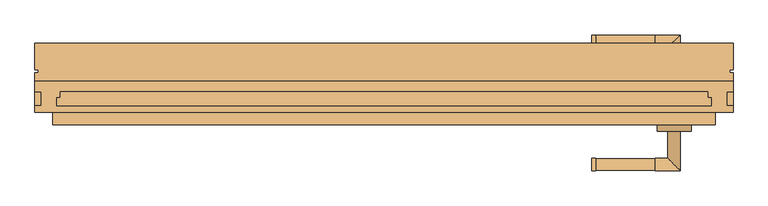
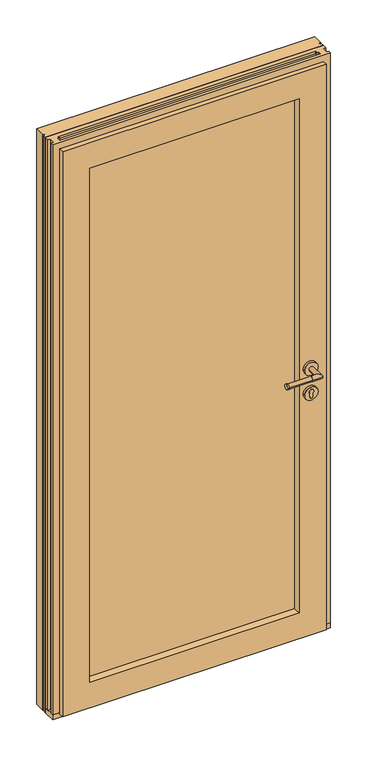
"""IFC4 building model written with IfcOpenShell, lengths in millimetres: door geometry, Porte vitrée MéO : Porte vitrée MéO."""

from ifc_helpers import new_model, si_unit, point, frame, frame_2d, origin, origin_with_axes, place, context, project, spatial, polyline, circle_curve, ellipse_curve, trimmed, segment, composite_curve, outline, extrude, faceted_brep, source, transform, mapped, element, save
from ifc_brep_helpers import plane_surface, cylinder_surface, advanced_brep


def door_e8a2ffe3(model_context):
    return source(origin(), model_context, "Body", "SolidModel", [
        advanced_brep(
        [(433.5, -12.0, 1100.0), (452.5, -12.0, 1100.0), (452.5, 48.0, 1100.0), (433.5, 29.0, 1100.0), (317.5, 29.0, 1100.0), (317.5, 48.0, 1100.0), (323.5, 29.0, 1100.0), (323.5, 48.0, 1100.0), (414.5, 48.0, 1100.0), (414.5, 29.0, 1100.0), (323.5, 29.5, 1100.0), (323.5, 47.5, 1100.0), (414.5, 29.5, 1100.0), (414.5, 47.5, 1100.0)],
        [
            (0, 1, circle_curve(frame((443.0, -12.0, 1100.0), z_axis=(0.0, -1.0, 0.0), x_axis=(1.0, 0.0, 0.0)), 9.5)),
            (1, 0, circle_curve(frame((443.0, -12.0, 1100.0), z_axis=(0.0, -1.0, 0.0), x_axis=(1.0, 0.0, 0.0)), 9.5)),
            (1, 2),
            (2, 3, ellipse_curve(frame((443.0, 38.5, 1100.0), z_axis=(0.7071067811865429, -0.707106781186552, 0.0), x_axis=(-0.7071067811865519, -0.707106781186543, 0.0)), 13.4350288, 9.5)),
            (3, 0),
            (3, 2, ellipse_curve(frame((443.0, 38.5, 1100.0), z_axis=(0.7071067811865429, -0.707106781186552, 0.0), x_axis=(-0.7071067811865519, -0.707106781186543, 0.0)), 13.4350288, 9.5)),
            (4, 5, circle_curve(frame((317.5, 38.5, 1100.0), z_axis=(-1.0, 0.0, 0.0), x_axis=(0.0, 1.0, 0.0)), 9.5)),
            (5, 4, circle_curve(frame((317.5, 38.5, 1100.0), z_axis=(-1.0, 0.0, 0.0), x_axis=(0.0, 1.0, 0.0)), 9.5)),
            (4, 6),
            (6, 7, circle_curve(frame((323.5, 38.5, 1100.0), z_axis=(-1.0, 0.0, 0.0), x_axis=(0.0, 1.0, 0.0)), 9.5)),
            (7, 5),
            (2, 8),
            (8, 9, circle_curve(frame((414.5, 38.5, 1100.0), z_axis=(1.0, 0.0, 0.0), x_axis=(0.0, 1.0, 0.0)), 9.5)),
            (9, 3),
            (9, 8, circle_curve(frame((414.5, 38.5, 1100.0), z_axis=(1.0, 0.0, 0.0), x_axis=(0.0, 1.0, 0.0)), 9.5)),
            (7, 6, circle_curve(frame((323.5, 38.5, 1100.0), z_axis=(-1.0, 0.0, 0.0), x_axis=(0.0, 1.0, 0.0)), 9.5)),
            (10, 11, circle_curve(frame((323.5, 38.5, 1100.0), z_axis=(-1.0, 0.0, 0.0), x_axis=(0.0, 1.0, 0.0)), 9.0)),
            (11, 10, circle_curve(frame((323.5, 38.5, 1100.0), z_axis=(-1.0, 0.0, 0.0), x_axis=(0.0, 1.0, 0.0)), 9.0)),
            (12, 13, circle_curve(frame((414.5, 38.5, 1100.0), z_axis=(1.0, 0.0, 0.0), x_axis=(0.0, 1.0, 0.0)), 9.0)),
            (13, 12, circle_curve(frame((414.5, 38.5, 1100.0), z_axis=(1.0, 0.0, 0.0), x_axis=(0.0, 1.0, 0.0)), 9.0)),
            (10, 12),
            (13, 11),
        ],
        [
            plane_surface(frame((443.0, -12.0, 1100.0), z_axis=(0.0, -1.0, 0.0), x_axis=(0.0, 0.0, 1.0))),
            cylinder_surface(frame((443.0, -12.0, 1100.0), z_axis=(0.0, -1.0, 0.0), x_axis=(1.0, 0.0, 0.0)), 9.5),
            plane_surface(frame((317.5, 38.5, 1100.0), z_axis=(-1.0, 0.0, 0.0), x_axis=(0.0, 0.0, 1.0))),
            cylinder_surface(frame((443.0, 38.5, 1100.0), z_axis=(1.0, 0.0, 0.0), x_axis=(0.0, 1.0, 0.0)), 9.5),
            plane_surface(frame((323.5, 48.0, 1100.0), z_axis=(1.0, 0.0, 0.0), x_axis=(0.0, 0.0, 1.0))),
            plane_surface(frame((414.5, 48.0, 1100.0), z_axis=(-1.0, 0.0, 0.0), x_axis=(0.0, 0.0, -1.0))),
            cylinder_surface(frame((443.0, 38.5, 1100.0), z_axis=(1.0, 0.0, 0.0), x_axis=(0.0, 1.0, 0.0)), 9.0),
        ],
        [
            (0, [[1, 2]]),
            (1, [[3, 4, 5, -2]]),
            (1, [[-5, 6, -3, -1]]),
            (2, [[7, 8]]),
            (3, [[9, 10, 11, -7]]),
            (3, [[12, 13, 14, -4]]),
            (3, [[-14, 15, -12, -6]]),
            (3, [[-11, 16, -9, -8]]),
            (4, [[-16, -10], [17, 18]]),
            (5, [[-15, -13], [19, 20]]),
            (6, [[21, -20, 22, -17]]),
            (6, [[-22, -19, -21, -18]]),
        ],
    ),
        extrude(outline(composite_curve([segment(trimmed(circle_curve(frame_2d((999.75, 443.0)), 26.0), [point((999.75, 469.0))], [point((999.75, 417.0))], False, "CARTESIAN"), True, "CONTINUOUS"), segment(trimmed(circle_curve(frame_2d((999.75, 443.0)), 26.0), [point((999.75, 417.0))], [point((999.75, 469.0))], False, "CARTESIAN"), True, "CONTINUOUS")], self_intersect=False)), frame((0.0, -22.0, 0.0), z_axis=(0.0, 1.0, 0.0), x_axis=(0.0, 0.0, 1.0)), (0.0, 0.0, 1.0), 10.0),
        extrude(outline(composite_curve([segment(trimmed(circle_curve(frame_2d((1008.0, 443.0)), 8.75), [point((1001.404547, 448.75))], [point((1001.404547, 437.25))], False, "CARTESIAN"), True, "CONTINUOUS"), segment(polyline([(1001.404547, 437.25), (988.0, 437.25)]), True, "CONTINUOUS"), segment(trimmed(circle_curve(frame_2d((988.0, 443.0)), 5.75), [point((988.0, 437.25))], [point((988.0, 448.75))], False, "CARTESIAN"), True, "CONTINUOUS"), segment(polyline([(988.0, 448.75), (1001.404547, 448.75)]), True, "CONTINUOUS")], self_intersect=False)), frame((0.0, -12.0, 0.0), z_axis=(0.0, 1.0, 0.0), x_axis=(0.0, 0.0, 1.0)), (0.0, 0.0, 1.0), 1.0),
        extrude(outline(composite_curve([segment(trimmed(circle_curve(frame_2d((1100.0, 443.0)), 26.0), [point((1100.0, 469.0))], [point((1100.0, 417.0))], False, "CARTESIAN"), True, "CONTINUOUS"), segment(trimmed(circle_curve(frame_2d((1100.0, 443.0)), 26.0), [point((1100.0, 417.0))], [point((1100.0, 469.0))], False, "CARTESIAN"), True, "CONTINUOUS")], self_intersect=False)), frame((0.0, -22.0, 0.0), z_axis=(0.0, 1.0, 0.0), x_axis=(0.0, 0.0, 1.0)), (0.0, 0.0, 1.0), 10.0),
        advanced_brep(
        [(433.5, -99.0, 1100.0), (452.5, -99.0, 1100.0), (433.5, -140.0, 1100.0), (452.5, -159.0, 1100.0), (317.5, -140.0, 1100.0), (317.5, -159.0, 1100.0), (414.5, -140.0, 1100.0), (414.5, -159.0, 1100.0), (323.5, -159.0, 1100.0), (323.5, -140.0, 1100.0), (323.5, -140.5, 1100.0), (323.5, -158.5, 1100.0), (414.5, -140.5, 1100.0), (414.5, -158.5, 1100.0)],
        [
            (0, 1, circle_curve(frame((443.0, -99.0, 1100.0), z_axis=(0.0, 1.0, 0.0), x_axis=(1.0, 0.0, 0.0)), 9.5)),
            (1, 0, circle_curve(frame((443.0, -99.0, 1100.0), z_axis=(0.0, 1.0, 0.0), x_axis=(1.0, 0.0, 0.0)), 9.5)),
            (0, 2),
            (2, 3, ellipse_curve(frame((443.0, -149.5, 1100.0), z_axis=(0.7071067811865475, 0.7071067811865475, 0.0), x_axis=(-0.7071067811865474, 0.7071067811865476, 0.0)), 13.4350288, 9.5)),
            (3, 1),
            (3, 2, ellipse_curve(frame((443.0, -149.5, 1100.0), z_axis=(0.7071067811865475, 0.7071067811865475, 0.0), x_axis=(-0.7071067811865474, 0.7071067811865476, 0.0)), 13.4350288, 9.5)),
            (4, 5, circle_curve(frame((317.5, -149.5, 1100.0), z_axis=(-1.0, 0.0, 0.0), x_axis=(0.0, -1.0, 0.0)), 9.5)),
            (5, 4, circle_curve(frame((317.5, -149.5, 1100.0), z_axis=(-1.0, 0.0, 0.0), x_axis=(0.0, -1.0, 0.0)), 9.5)),
            (2, 6),
            (6, 7, circle_curve(frame((414.5, -149.5, 1100.0), z_axis=(1.0, 0.0, 0.0), x_axis=(0.0, -1.0, 0.0)), 9.5)),
            (7, 3),
            (5, 8),
            (8, 9, circle_curve(frame((323.5, -149.5, 1100.0), z_axis=(-1.0, 0.0, 0.0), x_axis=(0.0, -1.0, 0.0)), 9.5)),
            (9, 4),
            (7, 6, circle_curve(frame((414.5, -149.5, 1100.0), z_axis=(1.0, 0.0, 0.0), x_axis=(0.0, -1.0, 0.0)), 9.5)),
            (9, 8, circle_curve(frame((323.5, -149.5, 1100.0), z_axis=(-1.0, 0.0, 0.0), x_axis=(0.0, -1.0, 0.0)), 9.5)),
            (10, 11, circle_curve(frame((323.5, -149.5, 1100.0), z_axis=(-1.0, 0.0, 0.0), x_axis=(0.0, -1.0, 0.0)), 9.0)),
            (11, 10, circle_curve(frame((323.5, -149.5, 1100.0), z_axis=(-1.0, 0.0, 0.0), x_axis=(0.0, -1.0, 0.0)), 9.0)),
            (12, 13, circle_curve(frame((414.5, -149.5, 1100.0), z_axis=(1.0, 0.0, 0.0), x_axis=(0.0, -1.0, 0.0)), 9.0)),
            (13, 12, circle_curve(frame((414.5, -149.5, 1100.0), z_axis=(1.0, 0.0, 0.0), x_axis=(0.0, -1.0, 0.0)), 9.0)),
            (11, 13),
            (12, 10),
        ],
        [
            plane_surface(frame((443.0, -99.0, 1100.0), z_axis=(0.0, 1.0, 0.0), x_axis=(0.0, 0.0, 1.0))),
            cylinder_surface(frame((443.0, -99.0, 1100.0), z_axis=(0.0, 1.0, 0.0), x_axis=(1.0, 0.0, 0.0)), 9.5),
            plane_surface(frame((317.5, -149.5, 1100.0), z_axis=(-1.0, 0.0, 0.0), x_axis=(0.0, 0.0, 1.0))),
            cylinder_surface(frame((443.0, -149.5, 1100.0), z_axis=(1.0, 0.0, 0.0), x_axis=(0.0, -1.0, 0.0)), 9.5),
            plane_surface(frame((323.5, -159.0, 1100.0), z_axis=(1.0, 0.0, 0.0), x_axis=(0.0, 0.0, 1.0))),
            plane_surface(frame((414.5, -159.0, 1100.0), z_axis=(-1.0, 0.0, 0.0), x_axis=(0.0, 0.0, -1.0))),
            cylinder_surface(frame((443.0, -149.5, 1100.0), z_axis=(1.0, 0.0, 0.0), x_axis=(0.0, -1.0, 0.0)), 9.0),
        ],
        [
            (0, [[1, 2]]),
            (1, [[-1, 3, 4, 5]]),
            (1, [[-2, -5, 6, -3]]),
            (2, [[7, 8]]),
            (3, [[-4, 9, 10, 11]]),
            (3, [[-8, 12, 13, 14]]),
            (3, [[-6, -11, 15, -9]]),
            (3, [[-7, -14, 16, -12]]),
            (4, [[-13, -16], [17, 18]]),
            (5, [[-10, -15], [19, 20]]),
            (6, [[-18, 21, -19, 22]]),
            (6, [[-17, -22, -20, -21]]),
        ],
    ),
        extrude(outline(composite_curve([segment(trimmed(circle_curve(frame_2d((999.75, 443.0)), 26.0), [point((999.75, 469.0))], [point((999.75, 417.0))], False, "CARTESIAN"), True, "CONTINUOUS"), segment(trimmed(circle_curve(frame_2d((999.75, 443.0)), 26.0), [point((999.75, 417.0))], [point((999.75, 469.0))], False, "CARTESIAN"), True, "CONTINUOUS")], self_intersect=False)), frame((0.0, -99.0, 0.0), z_axis=(0.0, 1.0, 0.0), x_axis=(0.0, 0.0, 1.0)), (0.0, 0.0, 1.0), 10.0),
        extrude(outline(composite_curve([segment(trimmed(circle_curve(frame_2d((1008.0, 443.0)), 8.75), [point((1001.404547, 448.75))], [point((1001.404547, 437.25))], False, "CARTESIAN"), True, "CONTINUOUS"), segment(polyline([(1001.404547, 437.25), (988.0, 437.25)]), True, "CONTINUOUS"), segment(trimmed(circle_curve(frame_2d((988.0, 443.0)), 5.75), [point((988.0, 437.25))], [point((988.0, 448.75))], False, "CARTESIAN"), True, "CONTINUOUS"), segment(polyline([(988.0, 448.75), (1001.404547, 448.75)]), True, "CONTINUOUS")], self_intersect=False)), frame((0.0, -100.0, 0.0), z_axis=(0.0, 1.0, 0.0), x_axis=(0.0, 0.0, 1.0)), (0.0, 0.0, 1.0), 1.0),
        extrude(outline(composite_curve([segment(trimmed(circle_curve(frame_2d((1100.0, 443.0)), 26.0), [point((1100.0, 469.0))], [point((1100.0, 417.0))], False, "CARTESIAN"), True, "CONTINUOUS"), segment(trimmed(circle_curve(frame_2d((1100.0, 443.0)), 26.0), [point((1100.0, 417.0))], [point((1100.0, 469.0))], False, "CARTESIAN"), True, "CONTINUOUS")], self_intersect=False)), frame((0.0, -99.0, 0.0), z_axis=(0.0, 1.0, 0.0), x_axis=(0.0, 0.0, 1.0)), (0.0, 0.0, 1.0), 10.0),
        extrude(outline(polyline([(412.0, -38.0), (412.0, -65.9981764), (-412.0, -65.9981764), (-412.0, -38.0), (412.0, -38.0)])), frame((0.0, 0.0, 108.0), z_axis=(0.0, 0.0, 1.0), x_axis=(1.0, 0.0, 0.0)), (0.0, 0.0, 1.0), 2105.0),
        faceted_brep([(396.0, -38.0, 2197.0), (400.5226435, -22.0, 2201.5226435), (400.5226435, -22.0, 119.4773565), (396.0, -38.0, 124.0), (476.0, -22.0, 44.0), (-476.0, -22.0, 44.0), (-476.0, -22.0, 2277.0), (476.0, -22.0, 2277.0), (-400.5226435, -22.0, 2201.5226435), (-400.5226435, -22.0, 119.4773565), (-396.0, -38.0, 124.0), (476.0, -38.0, 2277.0), (-476.0, -38.0, 2277.0), (-476.0, -38.0, 44.0), (476.0, -38.0, 44.0), (-396.0, -38.0, 2197.0)], [[[0, 1, 2, 3]], [[4, 5, 6, 7], [1, 8, 9, 2]], [[3, 2, 9, 10]], [[11, 12, 13, 14], [3, 10, 15, 0]], [[7, 11, 14, 4]], [[4, 14, 13, 5]], [[10, 9, 8, 15]], [[5, 13, 12, 6]], [[15, 8, 1, 0]], [[6, 12, 11, 7]]]),
        faceted_brep([(506.0, -70.0, 2307.0), (506.0, -89.0, 2307.0), (506.0, -89.0, 14.0), (506.0, -70.0, 14.0), (-506.0, -89.0, 2307.0), (-506.0, -89.0, 14.0), (402.0, -89.0, 118.0), (-402.0, -89.0, 118.0), (-402.0, -89.0, 2203.0), (402.0, -89.0, 2203.0), (-506.0, -70.0, 14.0), (-506.0, -70.0, 2307.0), (476.0, -70.0, 2277.0), (-476.0, -70.0, 2277.0), (-476.0, -70.0, 44.0), (476.0, -70.0, 44.0), (476.0, -38.0, 2277.0), (476.0, -38.0, 44.0), (-476.0, -38.0, 44.0), (-476.0, -38.0, 2277.0), (412.0, -38.0, 2213.0), (-412.0, -38.0, 2213.0), (-412.0, -38.0, 108.0), (412.0, -38.0, 108.0), (412.0, -65.9981764, 2213.0), (412.0, -65.9981764, 108.0), (-412.0, -65.9981764, 108.0), (-412.0, -65.9981764, 2213.0), (396.2463825, -65.9981764, 2197.2463825), (-396.2463825, -65.9981764, 2197.2463825), (-396.2463825, -65.9981764, 123.7536175), (396.2463825, -65.9981764, 123.7536175)], [[[0, 1, 2, 3]], [[1, 4, 5, 2], [6, 7, 8, 9]], [[3, 2, 5, 10]], [[3, 10, 11, 0], [12, 13, 14, 15]], [[16, 12, 15, 17]], [[17, 15, 14, 18]], [[17, 18, 19, 16], [20, 21, 22, 23]], [[24, 20, 23, 25]], [[25, 23, 22, 26]], [[25, 26, 27, 24], [28, 29, 30, 31]], [[9, 28, 31, 6]], [[6, 31, 30, 7]], [[10, 5, 4, 11]], [[18, 14, 13, 19]], [[26, 22, 21, 27]], [[7, 30, 29, 8]], [[11, 4, 1, 0]], [[19, 13, 12, 16]], [[27, 21, 20, 24]], [[8, 29, 28, 9]]]),
        faceted_brep([(494.0, 35.0, 0.0), (533.0, 35.0, 0.0), (533.0, -5.0, 0.0), (528.0, -5.0, 0.0), (528.0, -10.0, 0.0), (533.0, -10.0, 0.0), (533.0, -22.0, 0.0), (471.5, -22.0, 0.0), (471.5, -14.0, 0.0), (494.0, -14.0, 0.0), (-533.0, -10.0, 0.0), (-528.0, -10.0, 0.0), (-528.0, -5.0, 0.0), (-533.0, -5.0, 0.0), (-533.0, 35.0, 0.0), (-494.0, 35.0, 0.0), (-494.0, -14.0, 0.0), (-471.5, -14.0, 0.0), (-471.5, -22.0, 0.0), (-533.0, -22.0, 0.0), (494.0, -14.0, 2295.0), (494.0, 35.0, 2295.0), (471.5, -22.0, 2272.5), (471.5, -14.0, 2272.5), (-494.0, 35.0, 2295.0), (-494.0, -14.0, 2295.0), (-471.5, -14.0, 2272.5), (-471.5, -22.0, 2272.5), (-533.0, -22.0, 2334.0), (-533.0, -10.0, 2334.0), (-533.0, -5.0, 2334.0), (-533.0, 35.0, 2334.0), (-528.0, -5.0, 2334.0), (-528.0, -10.0, 2334.0), (533.0, -10.0, 2334.0), (533.0, -22.0, 2334.0), (528.0, -10.0, 2334.0), (528.0, -5.0, 2334.0), (533.0, -5.0, 2334.0), (533.0, 35.0, 2334.0)], [[[0, 1, 2, 3, 4, 5, 6, 7, 8, 9]], [[10, 11, 12, 13, 14, 15, 16, 17, 18, 19]], [[0, 9, 20, 21]], [[8, 7, 22, 23]], [[24, 21, 20, 25]], [[26, 23, 22, 27]], [[18, 17, 26, 27]], [[25, 16, 15, 24]], [[28, 29, 10, 19]], [[30, 31, 14, 13]], [[32, 30, 13, 12]], [[33, 32, 12, 11]], [[29, 33, 11, 10]], [[34, 35, 6, 5]], [[36, 34, 5, 4]], [[37, 36, 4, 3]], [[38, 37, 3, 2]], [[39, 38, 2, 1]], [[39, 1, 0, 21, 24, 15, 14, 31]], [[9, 8, 23, 26, 17, 16, 25, 20]], [[27, 22, 7, 6, 35, 28, 19, 18]], [[39, 31, 30, 32, 33, 29, 28, 35, 34, 36, 37, 38]]]),
        faceted_brep([(533.0, -70.0, 2334.0), (533.0, -60.0, 2334.0), (523.0, -60.0, 2334.0), (523.0, -39.0, 2334.0), (533.0, -39.0, 2334.0), (533.0, -22.0, 2334.0), (-533.0, -22.0, 2334.0), (-533.0, -39.0, 2334.0), (-523.0, -39.0, 2334.0), (-523.0, -60.0, 2334.0), (-533.0, -60.0, 2334.0), (-533.0, -70.0, 2334.0), (500.0, -48.0, 2334.0), (500.0, -60.0, 2334.0), (-500.0, -60.0, 2334.0), (-500.0, -48.0, 2334.0), (-494.0, -48.0, 2334.0), (-494.0, -39.0, 2334.0), (494.0, -39.0, 2334.0), (494.0, -48.0, 2334.0), (500.0, -70.0, 20.0), (500.0, -48.0, 20.0), (494.0, -48.0, 20.0), (494.0, -22.0, 20.0), (533.0, -22.0, 20.0), (533.0, -39.0, 20.0), (523.0, -39.0, 20.0), (523.0, -60.0, 20.0), (533.0, -60.0, 20.0), (533.0, -70.0, 20.0), (-500.0, -70.0, 20.0), (-533.0, -70.0, 20.0), (-533.0, -60.0, 20.0), (-523.0, -60.0, 20.0), (-523.0, -39.0, 20.0), (-533.0, -39.0, 20.0), (-533.0, -22.0, 20.0), (-494.0, -22.0, 20.0), (-494.0, -48.0, 20.0), (-500.0, -48.0, 20.0), (-500.0, -70.0, 2301.0), (500.0, -70.0, 2301.0), (494.0, -22.0, 2301.0), (-494.0, -22.0, 2301.0), (494.0, -39.0, 2324.0), (494.0, -48.0, 2324.0), (494.0, -48.0, 2301.0), (500.0, -48.0, 2324.0), (500.0, -48.0, 2301.0), (500.0, -60.0, 2324.0), (-500.0, -60.0, 2324.0), (-500.0, -48.0, 2324.0), (-500.0, -48.0, 2301.0), (-494.0, -48.0, 2324.0), (-494.0, -48.0, 2301.0), (-494.0, -39.0, 2324.0)], [[[0, 1, 2, 3, 4, 5, 6, 7, 8, 9, 10, 11], [12, 13, 14, 15, 16, 17, 18, 19]], [[20, 21, 22, 23, 24, 25, 26, 27, 28, 29]], [[30, 31, 32, 33, 34, 35, 36, 37, 38, 39]], [[0, 11, 31, 30, 40, 41, 20, 29]], [[1, 0, 29, 28]], [[2, 1, 28, 27]], [[3, 2, 27, 26]], [[5, 4, 25, 24]], [[24, 23, 42, 43, 37, 36, 6, 5]], [[19, 18, 44, 45]], [[23, 22, 46, 42]], [[12, 19, 45, 47]], [[22, 21, 48, 46]], [[13, 12, 47, 49]], [[21, 20, 41, 48]], [[15, 14, 50, 51]], [[30, 39, 52, 40]], [[16, 15, 51, 53]], [[39, 38, 54, 52]], [[17, 16, 53, 55]], [[38, 37, 43, 54]], [[7, 6, 36, 35]], [[11, 10, 32, 31]], [[14, 13, 49, 50]], [[50, 49, 47, 45, 44, 55, 53, 51]], [[18, 17, 55, 44]], [[41, 40, 52, 54, 43, 42, 46, 48]], [[4, 3, 26, 25]], [[8, 7, 35, 34]], [[9, 8, 34, 33]], [[10, 9, 33, 32]]]),
        extrude(outline(polyline([(-3.354759, 0.0), (0.0, 0.0), (-0.9723795, -2.2), (-0.9723795, -15.1), (-2.3823795, -15.1), (-2.3823795, -2.2), (-3.354759, 0.0)])), frame((-471.5, -16.0676205, 35.1), z_axis=(1.0, 3.224210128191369e-12, 0.0), x_axis=(-3.224210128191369e-12, 1.0, 0.0)), (0.0, 0.0, 1.0), 943.0),
        extrude(outline(polyline([(-494.0, -22.0), (-494.0, -5.0), (494.0, -5.0), (494.0, -22.0), (-494.0, -22.0)])), origin_with_axes(), (0.0, 0.0, 1.0), 20.0),
        extrude(outline(polyline([(-533.0, -70.0), (-533.0, -22.0), (533.0, -22.0), (533.0, -70.0), (-533.0, -70.0)])), origin_with_axes(), (0.0, 0.0, 1.0), 20.0),
        extrude(outline(polyline([(0.0, 0.0), (18.3886975, 0.0), (19.0946064, -4.0083154), (17.5188558, -4.2858226), (17.0453592, -1.5971982), (1.905907, -1.5971982), (4.0159704, -13.5786309), (10.7129102, -12.3992253), (11.6148085, -17.5204146), (3.3421182, -18.9773273), (0.0, 0.0)])), frame((-471.5, -22.0, 54.3693722), z_axis=(1.0, 3.2242101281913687e-12, 0.0), x_axis=(-3.175344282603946e-12, 0.9848440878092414, -0.17344198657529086)), (0.0, 0.0, 1.0), 943.0),
    ])


if __name__ == "__main__":
    model = new_model("IFC4")
    model_context = context("Model", 3, world=origin())
    ifc_project = project(units=[si_unit("LENGTHUNIT", "METRE", prefix="MILLI")], contexts=[model_context])
    site = spatial("IfcSite", under=ifc_project)
    building = spatial("IfcBuilding", under=site)
    placement = place(None, origin())
    door_shape = door_e8a2ffe3(model_context)
    element("IfcDoor", 1, ObjectType="Porte vitrée MéO : Porte vitrée MéO", at=placement, inside=building, context=model_context, shape_type="MappedRepresentation", body=[
        mapped(door_shape, transform((0.0, 0.0, 0.0), x_axis=(1.0, 0.0, 0.0), y_axis=(0.0, 1.0, 0.0), z_axis=(0.0, 0.0, 1.0))),
    ])
    save(model, "model.ifc")
